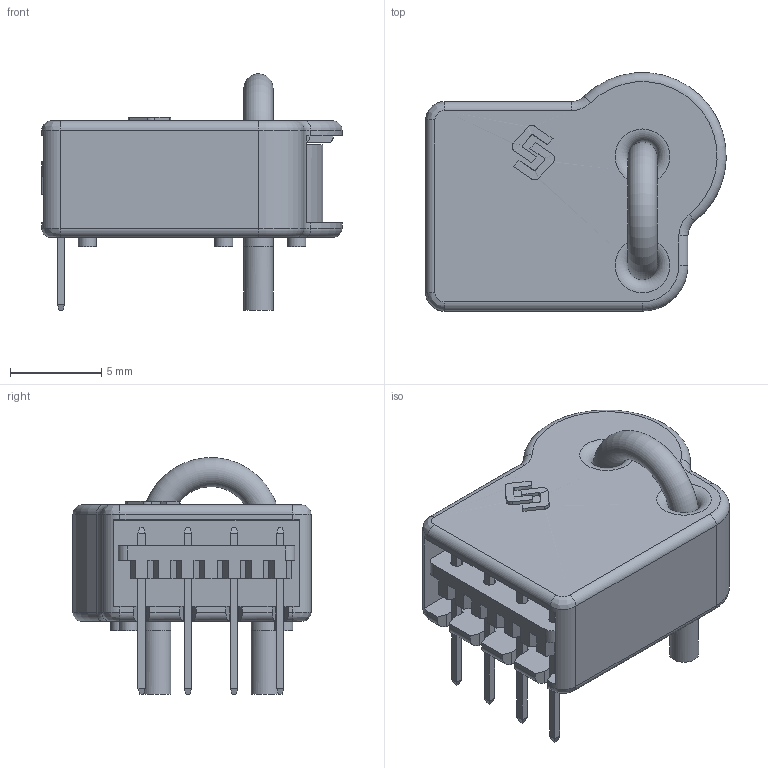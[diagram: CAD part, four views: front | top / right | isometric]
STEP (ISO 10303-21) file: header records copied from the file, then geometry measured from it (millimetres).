
FILE_DESCRIPTION(/* description */ (''),/* implementation_level */ '2;1');
FILE_NAME(/* name */ 'STK-HD.stp',/* time_stamp */ '2021-06-29T17:14:47+08:00',/* author */ (''),/* organization */ (''),/* preprocessor_version */ 'ST-DEVELOPER v15',/* originating_system */ 'SIEMENS PLM Software NX 8.5',/* authorisation */ '');
FILE_SCHEMA (('AUTOMOTIVE_DESIGN { 1 0 10303 214 3 1 1 1 }'));
Length unit declared in the file: millimetre
Products named in the file (1): LeiX304853A83yo4
Bounding box: 16.5 x 13.09 x 12.99 mm (x, y, z)
Surface area: 1238.1 mm2 (no closed solid volume)
Topology: 0 solids, 1 shells, 301 faces, 770 edges, 493 vertices
Faces by surface type: plane 234, cylinder 42, torus 13, extrusion 8, bspline 4
Full cylindrical faces by diameter (mm): 0.65 x4, 1 x4, 1.6 x4
Entity records: 9667 total; most frequent: CARTESIAN_POINT 1889, ORIENTED_EDGE 1482, DIRECTION 1408, EDGE_CURVE 741, VECTOR 594, LINE 586, VERTEX_POINT 483, AXIS2_PLACEMENT_3D 407
